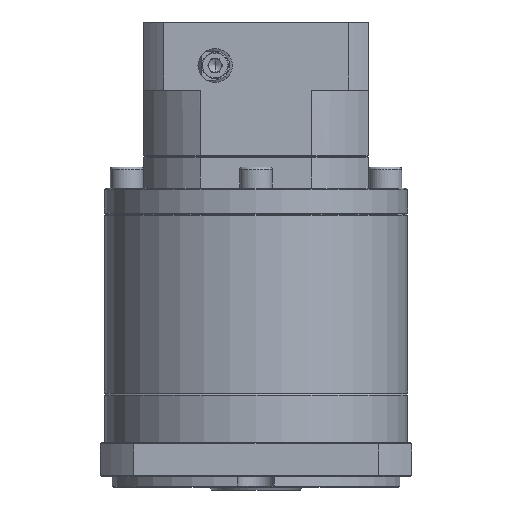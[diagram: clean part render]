
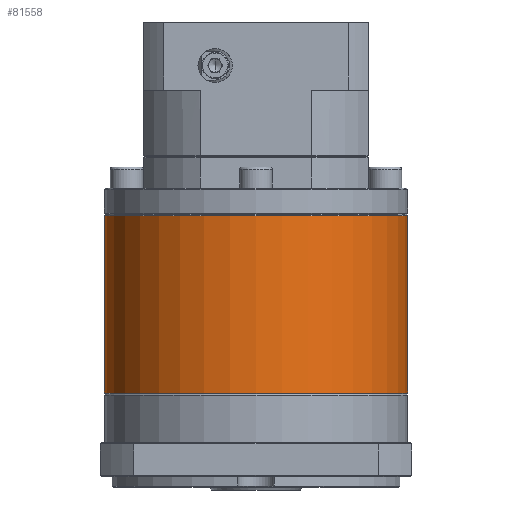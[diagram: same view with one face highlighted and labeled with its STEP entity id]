
A CAD part, front view. The second image highlights one B-rep face of the part: STEP entity #81558.
In plain terms, the highlighted cylindrical face has radius 57.5 mm (diameter 115 mm), a partial arc.
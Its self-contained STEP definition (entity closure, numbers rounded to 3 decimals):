
#806 = VECTOR ( 'NONE', #60321, 1000. ) ;
#7553 = CARTESIAN_POINT ( 'NONE',  ( 66.781, 86.526, -57.561 ) ) ;
#8663 = ORIENTED_EDGE ( 'NONE', *, *, #70796, .F. ) ;
#15897 = CARTESIAN_POINT ( 'NONE',  ( 9.281, 86.526, -57.561 ) ) ;
#19559 = CARTESIAN_POINT ( 'NONE',  ( 124.281, 86.526, -125.273 ) ) ;
#22198 = DIRECTION ( 'NONE',  ( -1., 0., 0. ) ) ;
#23241 = CARTESIAN_POINT ( 'NONE',  ( 124.281, 86.526, -58.061 ) ) ;
#30710 = ORIENTED_EDGE ( 'NONE', *, *, #78294, .T. ) ;
#31734 = EDGE_LOOP ( 'NONE', ( #8663, #39406, #30710, #88216, #121684 ) ) ;
#32387 = EDGE_CURVE ( 'NONE', #48214, #35274, #103706, .T. ) ;
#34295 = VERTEX_POINT ( 'NONE', #19559 ) ;
#35274 = VERTEX_POINT ( 'NONE', #71164 ) ;
#35546 = DIRECTION ( 'NONE',  ( -1., 0., 0. ) ) ;
#39406 = ORIENTED_EDGE ( 'NONE', *, *, #32387, .T. ) ;
#40219 = CARTESIAN_POINT ( 'NONE',  ( 9.281, 86.526, -58.061 ) ) ;
#41891 = LINE ( 'NONE', #15897, #104911 ) ;
#42994 = AXIS2_PLACEMENT_3D ( 'NONE', #7553, #45713, #54852 ) ;
#43620 = DIRECTION ( 'NONE',  ( 0., 0., -1. ) ) ;
#45713 = DIRECTION ( 'NONE',  ( 0., 0., -1. ) ) ;
#46868 = VERTEX_POINT ( 'NONE', #40219 ) ;
#46904 = EDGE_CURVE ( 'NONE', #46868, #110898, #41891, .T. ) ;
#48214 = VERTEX_POINT ( 'NONE', #23241 ) ;
#50328 = CARTESIAN_POINT ( 'NONE',  ( 124.281, 86.526, -57.561 ) ) ;
#54788 = DIRECTION ( 'NONE',  ( 0., 0., -1. ) ) ;
#54852 = DIRECTION ( 'NONE',  ( -1., 0., 0. ) ) ;
#56032 = CARTESIAN_POINT ( 'NONE',  ( 66.781, 86.526, -58.061 ) ) ;
#57880 = AXIS2_PLACEMENT_3D ( 'NONE', #56032, #54788, #35546 ) ;
#60321 = DIRECTION ( 'NONE',  ( 0., 0., -1. ) ) ;
#60691 = CARTESIAN_POINT ( 'NONE',  ( 66.781, 86.526, -125.273 ) ) ;
#61249 = EDGE_CURVE ( 'NONE', #110898, #34295, #68328, .T. ) ;
#68328 = CIRCLE ( 'NONE', #106062, 57.5 ) ;
#70796 = EDGE_CURVE ( 'NONE', #48214, #34295, #84814, .T. ) ;
#71164 = CARTESIAN_POINT ( 'NONE',  ( 66.781, 29.026, -58.061 ) ) ;
#78294 = EDGE_CURVE ( 'NONE', #35274, #46868, #100483, .T. ) ;
#78431 = CARTESIAN_POINT ( 'NONE',  ( 66.781, 86.526, -58.061 ) ) ;
#79582 = FACE_OUTER_BOUND ( 'NONE', #31734, .T. ) ;
#81187 = CYLINDRICAL_SURFACE ( 'NONE', #42994, 57.5 ) ;
#81558 = ADVANCED_FACE ( 'NONE', ( #79582 ), #81187, .T. ) ;
#82654 = AXIS2_PLACEMENT_3D ( 'NONE', #78431, #107344, #116526 ) ;
#84814 = LINE ( 'NONE', #50328, #806 ) ;
#88216 = ORIENTED_EDGE ( 'NONE', *, *, #46904, .T. ) ;
#98239 = CARTESIAN_POINT ( 'NONE',  ( 9.281, 86.526, -125.273 ) ) ;
#100483 = CIRCLE ( 'NONE', #82654, 57.5 ) ;
#103706 = CIRCLE ( 'NONE', #57880, 57.5 ) ;
#104911 = VECTOR ( 'NONE', #43620, 1000. ) ;
#106062 = AXIS2_PLACEMENT_3D ( 'NONE', #60691, #118518, #22198 ) ;
#107344 = DIRECTION ( 'NONE',  ( 0., 0., -1. ) ) ;
#110898 = VERTEX_POINT ( 'NONE', #98239 ) ;
#116526 = DIRECTION ( 'NONE',  ( -1., 0., 0. ) ) ;
#118518 = DIRECTION ( 'NONE',  ( 0., 0., 1. ) ) ;
#121684 = ORIENTED_EDGE ( 'NONE', *, *, #61249, .T. ) ;
